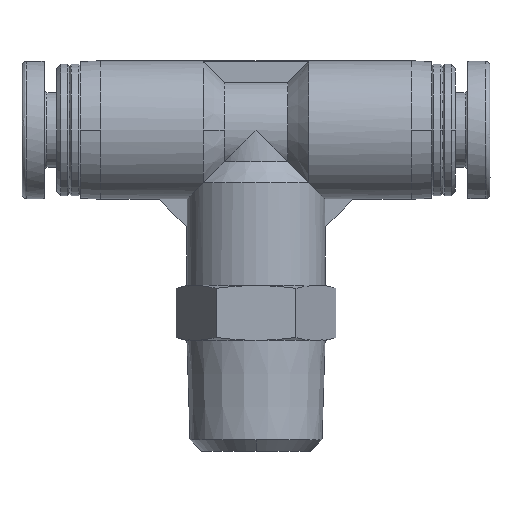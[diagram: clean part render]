
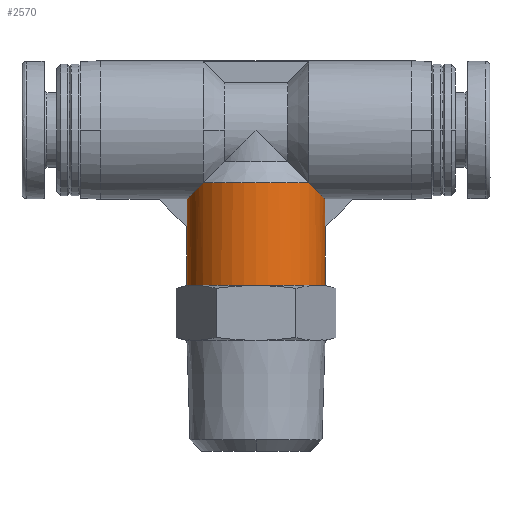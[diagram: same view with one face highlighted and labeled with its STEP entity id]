
A CAD part, front view. The second image highlights one B-rep face of the part: STEP entity #2570.
In plain terms, the highlighted cylindrical face has radius 5 mm (diameter 10 mm), a partial arc.
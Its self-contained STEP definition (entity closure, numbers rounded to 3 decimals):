
#62 = VECTOR ( 'NONE', #656, 1000. ) ;
#90 = CARTESIAN_POINT ( 'NONE',  ( 4.975, -0.5, 18.225 ) ) ;
#127 = ORIENTED_EDGE ( 'NONE', *, *, #2125, .F. ) ;
#128 = CARTESIAN_POINT ( 'NONE',  ( 4.872, -1.523, 18.328 ) ) ;
#152 = LINE ( 'NONE', #3488, #62 ) ;
#292 = VERTEX_POINT ( 'NONE', #1044 ) ;
#348 =( BOUNDED_CURVE ( )  B_SPLINE_CURVE ( 3, ( #2198, #2163, #1409, #1398 ),
 .UNSPECIFIED., .F., .F. ) 
 B_SPLINE_CURVE_WITH_KNOTS ( ( 4, 4 ),
 ( 3.242, 3.849 ),
 .UNSPECIFIED. ) 
 CURVE ( )  GEOMETRIC_REPRESENTATION_ITEM ( )  RATIONAL_B_SPLINE_CURVE ( ( 1., 0.969, 0.969, 1. ) ) 
 REPRESENTATION_ITEM ( '' )  );
#393 = VERTEX_POINT ( 'NONE', #1804 ) ;
#427 = DIRECTION ( 'NONE',  ( 1., 0., 0. ) ) ;
#450 = CARTESIAN_POINT ( 'NONE',  ( 3.8, -3.25, 19.4 ) ) ;
#468 = FACE_OUTER_BOUND ( 'NONE', #2284, .T. ) ;
#532 = VERTEX_POINT ( 'NONE', #3255 ) ;
#549 = CARTESIAN_POINT ( 'NONE',  ( 0., 0., 12. ) ) ;
#555 = DIRECTION ( 'NONE',  ( 1., 0., 0. ) ) ;
#580 = ORIENTED_EDGE ( 'NONE', *, *, #1345, .T. ) ;
#644 = VERTEX_POINT ( 'NONE', #3010 ) ;
#656 = DIRECTION ( 'NONE',  ( 0., 0., -1. ) ) ;
#662 = VECTOR ( 'NONE', #904, 1000. ) ;
#730 = DIRECTION ( 'NONE',  ( 0., 0., 1. ) ) ;
#759 = CIRCLE ( 'NONE', #3289, 5. ) ;
#867 = CARTESIAN_POINT ( 'NONE',  ( 4.975, -0.5, 12. ) ) ;
#904 = DIRECTION ( 'NONE',  ( 0., 0., 1. ) ) ;
#955 = CIRCLE ( 'NONE', #3079, 5. ) ;
#983 = LINE ( 'NONE', #867, #662 ) ;
#1033 = CARTESIAN_POINT ( 'NONE',  ( 4.468, -2.468, 18.732 ) ) ;
#1044 = CARTESIAN_POINT ( 'NONE',  ( -5., 0., 16.2 ) ) ;
#1075 = EDGE_CURVE ( 'NONE', #644, #3280, #152, .T. ) ;
#1182 = EDGE_CURVE ( 'NONE', #292, #3280, #2756, .T. ) ;
#1283 = CARTESIAN_POINT ( 'NONE',  ( -5., 0., 12. ) ) ;
#1345 = EDGE_CURVE ( 'NONE', #532, #393, #983, .T. ) ;
#1353 = CARTESIAN_POINT ( 'NONE',  ( 0., 0., 12. ) ) ;
#1398 = CARTESIAN_POINT ( 'NONE',  ( -3.8, -3.25, 19.4 ) ) ;
#1409 = CARTESIAN_POINT ( 'NONE',  ( -4.468, -2.468, 18.732 ) ) ;
#1515 = EDGE_CURVE ( 'NONE', #532, #3260, #3547, .T. ) ;
#1689 = ORIENTED_EDGE ( 'NONE', *, *, #1182, .F. ) ;
#1743 = EDGE_CURVE ( 'NONE', #2388, #3303, #955, .T. ) ;
#1749 = EDGE_CURVE ( 'NONE', #3225, #2799, #759, .T. ) ;
#1799 = VECTOR ( 'NONE', #2458, 1000. ) ;
#1803 = AXIS2_PLACEMENT_3D ( 'NONE', #549, #2364, #555 ) ;
#1804 = CARTESIAN_POINT ( 'NONE',  ( 4.975, -0.5, 18.225 ) ) ;
#1872 = ORIENTED_EDGE ( 'NONE', *, *, #1075, .T. ) ;
#1898 = EDGE_CURVE ( 'NONE', #644, #3303, #348, .T. ) ;
#1936 = EDGE_CURVE ( 'NONE', #2388, #393, #3407, .T. ) ;
#1948 = ORIENTED_EDGE ( 'NONE', *, *, #1898, .F. ) ;
#1954 = DIRECTION ( 'NONE',  ( 1., 0., 0. ) ) ;
#2025 = CARTESIAN_POINT ( 'NONE',  ( 4.992, -0.334, 16.192 ) ) ;
#2026 = ORIENTED_EDGE ( 'NONE', *, *, #1515, .F. ) ;
#2125 = EDGE_CURVE ( 'NONE', #3225, #292, #2447, .T. ) ;
#2163 = CARTESIAN_POINT ( 'NONE',  ( -4.872, -1.523, 18.328 ) ) ;
#2183 = DIRECTION ( 'NONE',  ( 0., 0., -1. ) ) ;
#2198 = CARTESIAN_POINT ( 'NONE',  ( -4.975, -0.5, 18.225 ) ) ;
#2202 = CARTESIAN_POINT ( 'NONE',  ( 4.975, -0.5, 16.175 ) ) ;
#2208 = ORIENTED_EDGE ( 'NONE', *, *, #3421, .T. ) ;
#2245 = CARTESIAN_POINT ( 'NONE',  ( 5., 0., 12. ) ) ;
#2280 = VECTOR ( 'NONE', #2429, 1000. ) ;
#2282 = CARTESIAN_POINT ( 'NONE',  ( 3.8, -3.25, 19.4 ) ) ;
#2284 = EDGE_LOOP ( 'NONE', ( #127, #2623, #2208, #2026, #580, #2844, #2923, #1948, #1872, #1689 ) ) ;
#2336 = CARTESIAN_POINT ( 'NONE',  ( 5., -0.167, 16.2 ) ) ;
#2342 = CARTESIAN_POINT ( 'NONE',  ( 5., 0., 16.2 ) ) ;
#2364 = DIRECTION ( 'NONE',  ( 0., 0., 1. ) ) ;
#2385 = LINE ( 'NONE', #3138, #2280 ) ;
#2388 = VERTEX_POINT ( 'NONE', #2282 ) ;
#2429 = DIRECTION ( 'NONE',  ( 0., 0., 1. ) ) ;
#2447 = LINE ( 'NONE', #1283, #1799 ) ;
#2458 = DIRECTION ( 'NONE',  ( 0., 0., 1. ) ) ;
#2485 = CARTESIAN_POINT ( 'NONE',  ( -4.975, -0.5, 16.175 ) ) ;
#2499 = CARTESIAN_POINT ( 'NONE',  ( -4.992, -0.334, 16.192 ) ) ;
#2508 = CARTESIAN_POINT ( 'NONE',  ( 0., 0., 19.4 ) ) ;
#2511 = CARTESIAN_POINT ( 'NONE',  ( -5., -0.167, 16.2 ) ) ;
#2524 = CARTESIAN_POINT ( 'NONE',  ( -5., 0., 16.2 ) ) ;
#2570 = ADVANCED_FACE ( '39', ( #468 ), #3562, .T. ) ;
#2623 = ORIENTED_EDGE ( 'NONE', *, *, #1749, .T. ) ;
#2756 =( BOUNDED_CURVE ( )  B_SPLINE_CURVE ( 3, ( #2524, #2511, #2499, #2485 ),
 .UNSPECIFIED., .F., .F. ) 
 B_SPLINE_CURVE_WITH_KNOTS ( ( 4, 4 ),
 ( 0., 0.1 ),
 .UNSPECIFIED. ) 
 CURVE ( )  GEOMETRIC_REPRESENTATION_ITEM ( )  RATIONAL_B_SPLINE_CURVE ( ( 1., 0.999, 0.999, 1. ) ) 
 REPRESENTATION_ITEM ( '' )  );
#2799 = VERTEX_POINT ( 'NONE', #2245 ) ;
#2844 = ORIENTED_EDGE ( 'NONE', *, *, #1936, .F. ) ;
#2923 = ORIENTED_EDGE ( 'NONE', *, *, #1743, .T. ) ;
#3010 = CARTESIAN_POINT ( 'NONE',  ( -4.975, -0.5, 18.225 ) ) ;
#3064 = CARTESIAN_POINT ( 'NONE',  ( -3.8, -3.25, 19.4 ) ) ;
#3079 = AXIS2_PLACEMENT_3D ( 'NONE', #2508, #2183, #1954 ) ;
#3138 = CARTESIAN_POINT ( 'NONE',  ( 5., 0., 12. ) ) ;
#3225 = VERTEX_POINT ( 'NONE', #3570 ) ;
#3236 = CARTESIAN_POINT ( 'NONE',  ( -4.975, -0.5, 16.175 ) ) ;
#3255 = CARTESIAN_POINT ( 'NONE',  ( 4.975, -0.5, 16.175 ) ) ;
#3260 = VERTEX_POINT ( 'NONE', #3400 ) ;
#3280 = VERTEX_POINT ( 'NONE', #3236 ) ;
#3289 = AXIS2_PLACEMENT_3D ( 'NONE', #1353, #730, #427 ) ;
#3303 = VERTEX_POINT ( 'NONE', #3064 ) ;
#3400 = CARTESIAN_POINT ( 'NONE',  ( 5., 0., 16.2 ) ) ;
#3407 =( BOUNDED_CURVE ( )  B_SPLINE_CURVE ( 3, ( #450, #1033, #128, #90 ),
 .UNSPECIFIED., .F., .F. ) 
 B_SPLINE_CURVE_WITH_KNOTS ( ( 4, 4 ),
 ( 2.434, 3.041 ),
 .UNSPECIFIED. ) 
 CURVE ( )  GEOMETRIC_REPRESENTATION_ITEM ( )  RATIONAL_B_SPLINE_CURVE ( ( 1., 0.969, 0.969, 1. ) ) 
 REPRESENTATION_ITEM ( '' )  );
#3421 = EDGE_CURVE ( 'NONE', #2799, #3260, #2385, .T. ) ;
#3488 = CARTESIAN_POINT ( 'NONE',  ( -4.975, -0.5, 12. ) ) ;
#3547 =( BOUNDED_CURVE ( )  B_SPLINE_CURVE ( 3, ( #2202, #2025, #2336, #2342 ),
 .UNSPECIFIED., .F., .T. ) 
 B_SPLINE_CURVE_WITH_KNOTS ( ( 4, 4 ),
 ( 6.183, 6.283 ),
 .UNSPECIFIED. ) 
 CURVE ( )  GEOMETRIC_REPRESENTATION_ITEM ( )  RATIONAL_B_SPLINE_CURVE ( ( 1., 0.999, 0.999, 1. ) ) 
 REPRESENTATION_ITEM ( '' )  );
#3562 = CYLINDRICAL_SURFACE ( 'NONE', #1803, 5. ) ;
#3570 = CARTESIAN_POINT ( 'NONE',  ( -5., 0., 12. ) ) ;
